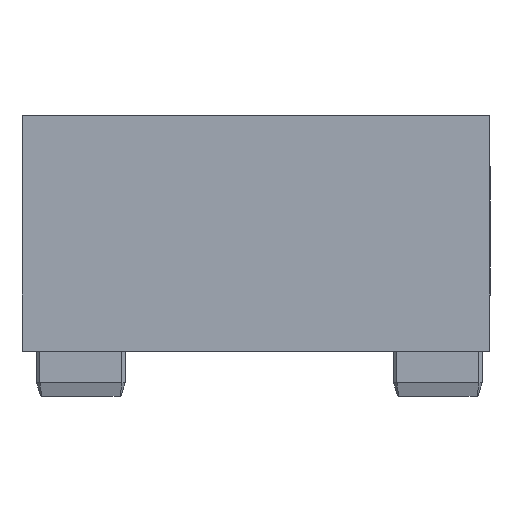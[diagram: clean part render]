
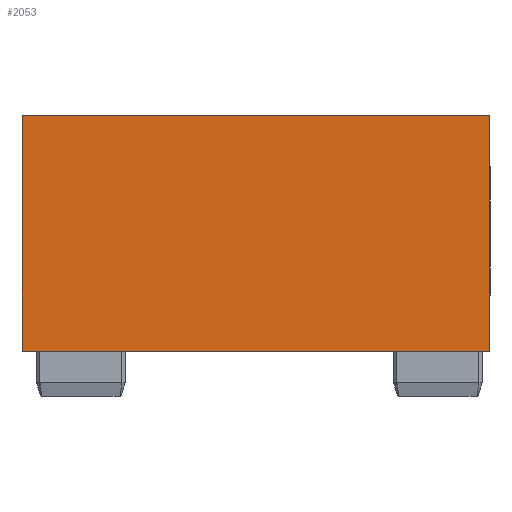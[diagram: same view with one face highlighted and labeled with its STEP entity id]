
A CAD part, left-side view. The second image highlights one B-rep face of the part: STEP entity #2053.
In plain terms, the highlighted planar face has unit normal (-1, 0, 0).
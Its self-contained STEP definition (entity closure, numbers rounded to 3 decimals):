
#143=FACE_OUTER_BOUND('',#265,.T.);
#265=EDGE_LOOP('',(#1775,#1776,#1777,#1778));
#528=LINE('',#3236,#804);
#536=LINE('',#3250,#812);
#545=LINE('',#3267,#821);
#546=LINE('',#3269,#822);
#804=VECTOR('',#2670,10.);
#812=VECTOR('',#2680,10.);
#821=VECTOR('',#2699,10.);
#822=VECTOR('',#2702,10.);
#981=VERTEX_POINT('',#3234);
#982=VERTEX_POINT('',#3235);
#987=VERTEX_POINT('',#3249);
#990=VERTEX_POINT('',#3265);
#1248=EDGE_CURVE('',#981,#982,#528,.T.);
#1256=EDGE_CURVE('',#987,#982,#536,.T.);
#1265=EDGE_CURVE('',#981,#990,#545,.T.);
#1266=EDGE_CURVE('',#987,#990,#546,.T.);
#1775=ORIENTED_EDGE('',*,*,#1265,.T.);
#1776=ORIENTED_EDGE('',*,*,#1266,.F.);
#1777=ORIENTED_EDGE('',*,*,#1256,.T.);
#1778=ORIENTED_EDGE('',*,*,#1248,.F.);
#1935=PLANE('',#2186);
#2053=ADVANCED_FACE('',(#143),#1935,.T.);
#2186=AXIS2_PLACEMENT_3D('',#3268,#2700,#2701);
#2670=DIRECTION('',(0.,-1.,0.));
#2680=DIRECTION('',(0.,0.,1.));
#2699=DIRECTION('',(0.,0.,-1.));
#2700=DIRECTION('center_axis',(-1.,0.,0.));
#2701=DIRECTION('ref_axis',(0.,1.,0.));
#2702=DIRECTION('',(0.,1.,0.));
#3234=CARTESIAN_POINT('',(-104.,103.3,51.));
#3235=CARTESIAN_POINT('',(-104.,0.,51.));
#3236=CARTESIAN_POINT('',(-104.,103.3,51.));
#3249=CARTESIAN_POINT('',(-104.,0.,-1.));
#3250=CARTESIAN_POINT('',(-104.,0.,0.));
#3265=CARTESIAN_POINT('',(-104.,103.3,-1.));
#3267=CARTESIAN_POINT('',(-104.,103.3,0.));
#3268=CARTESIAN_POINT('Origin',(-104.,0.,0.));
#3269=CARTESIAN_POINT('',(-104.,103.3,-1.));
